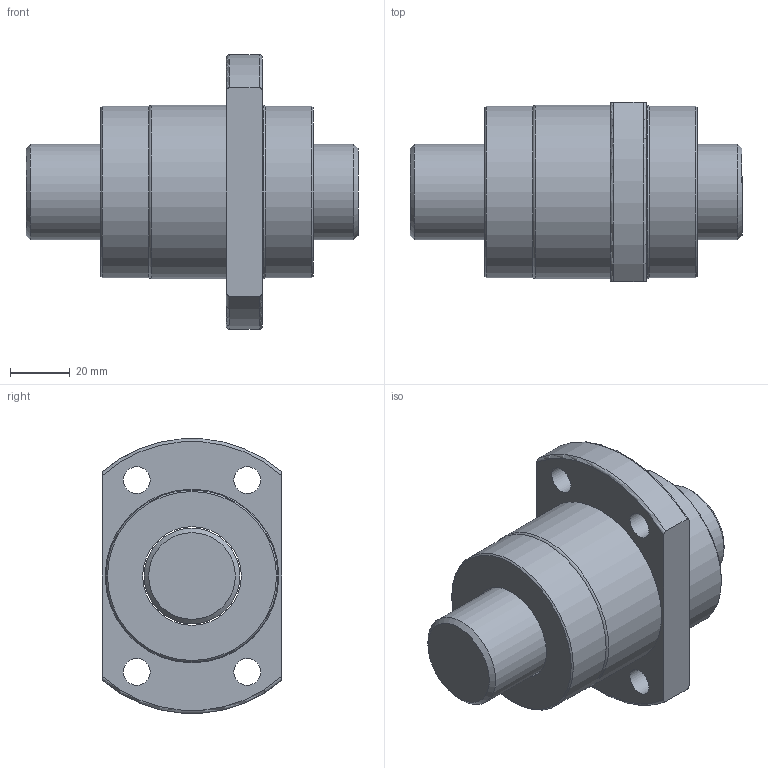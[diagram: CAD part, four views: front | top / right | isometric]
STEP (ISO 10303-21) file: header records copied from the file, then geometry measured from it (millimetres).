
FILE_DESCRIPTION(/* description */ (''),/* implementation_level */ '2;1');
FILE_NAME(/* name */ 'SFE3232',/* time_stamp */ '2007-10-26T11:57:55+08:00',/* author */ (''),/* organization */ (''),/* preprocessor_version */ 'ST-DEVELOPER v9',/* originating_system */ 'EDS PLM SOLUTIONS - UNIGRAPHICS NX 1.0',/* authorisation */ '');
FILE_SCHEMA (('CONFIG_CONTROL_DESIGN'));
Length unit declared in the file: millimetre
Products named in the file (1): FANNDA0400g5
Bounding box: 111 x 60 x 91.71 mm (x, y, z)
Volume: 240741.5 mm3; surface area: 49850.8 mm2
Topology: 4 solids, 4 shells, 36 faces, 76 edges, 50 vertices
Faces by surface type: cylinder 14, plane 12, torus 6, cone 4
Full cylindrical faces by diameter (mm): 9 x4, 32 x1, 33 x3, 57.5 x2, 58 x2
Entity records: 988 total; most frequent: CARTESIAN_POINT 177, DIRECTION 158, ORIENTED_EDGE 108, AXIS2_PLACEMENT_3D 75, EDGE_LOOP 70, EDGE_CURVE 54, FACE_BOUND 48, VERTEX_POINT 46
